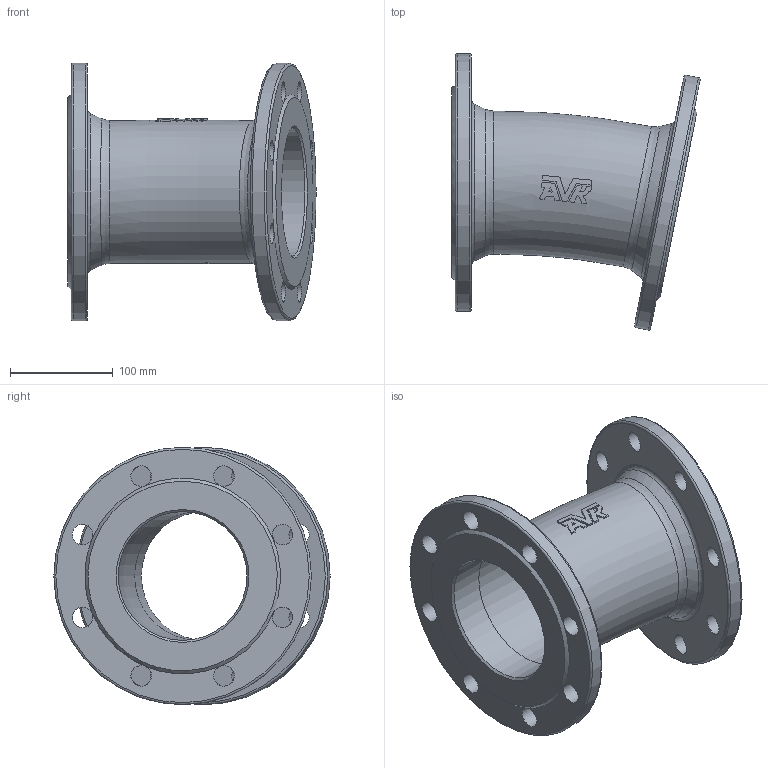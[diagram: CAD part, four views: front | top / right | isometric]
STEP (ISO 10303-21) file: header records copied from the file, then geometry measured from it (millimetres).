
FILE_DESCRIPTION (( 'STEP AP203' ), '1' );
FILE_NAME ('O_712_0110_DN125_REV02.step', '2024-08-15T07:35:54', ( '' ), ( '' ), 'SwSTEP 2.0', 'SolidWorks 2022', '' );
FILE_SCHEMA (( 'CONFIG_CONTROL_DESIGN' ));
Length unit declared in the file: millimetre
Products named in the file (1): O_712_0110_DN125_REV02
Bounding box: 240.96 x 268.31 x 250 mm (x, y, z)
Volume: 1783403.6 mm3; surface area: 332419.3 mm2
Topology: 1 solids, 1 shells, 120 faces, 355 edges, 229 vertices
Faces by surface type: cylinder 59, plane 41, torus 12, cone 6, bspline 2
Full cylindrical faces by diameter (mm): 20 x16, 125 x2, 250 x2
Entity records: 5577 total; most frequent: CARTESIAN_POINT 2805, ORIENTED_EDGE 588, DIRECTION 448, EDGE_CURVE 294, VERTEX_POINT 204, AXIS2_PLACEMENT_3D 187, EDGE_LOOP 182, B_SPLINE_CURVE_WITH_KNOTS 152
